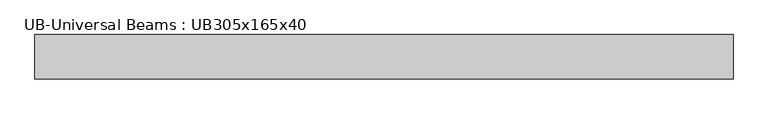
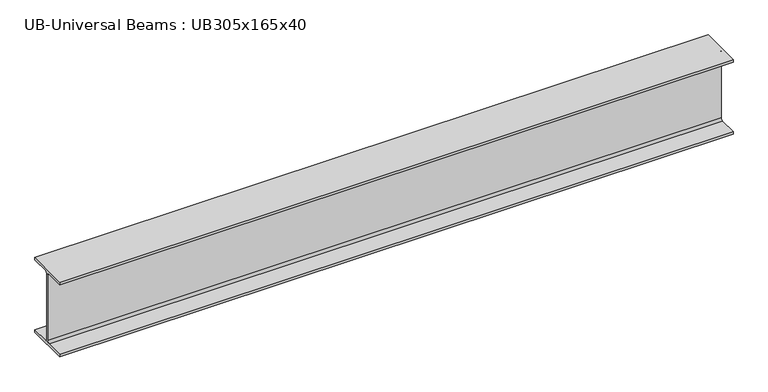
"""IFC4 building model written with IfcOpenShell, lengths in millimetres: beam geometry, UB-Universal Beams : UB305x165x40."""

from ifc_helpers import new_model, si_unit, point, frame, frame_2d, origin, place, context, project, spatial, polyline, circle_curve, trimmed, segment, composite_curve, outline, extrude, source, transform, mapped, element, save


def ub_universal_beams_ub305x165x40_d184adfd(model_context):
    return source(origin(), model_context, "Body", "SweptSolid", [
        extrude(outline(composite_curve([segment(polyline([(82.5, -141.5), (82.5, -151.7), (-82.5, -151.7), (-82.5, -141.5), (-11.9, -141.5)]), True, "CONTINUOUS"), segment(trimmed(circle_curve(frame_2d((-11.9, -132.6)), 8.9), [point((-11.9, -141.5))], [point((-3.0, -132.6))], True, "CARTESIAN"), True, "CONTINUOUS"), segment(polyline([(-3.0, -132.6), (-3.0, 132.6)]), True, "CONTINUOUS"), segment(trimmed(circle_curve(frame_2d((-11.9, 132.6)), 8.9), [point((-3.0, 132.6))], [point((-11.9, 141.5))], True, "CARTESIAN"), True, "CONTINUOUS"), segment(polyline([(-11.9, 141.5), (-82.5, 141.5), (-82.5, 151.7), (82.5, 151.7), (82.5, 141.5), (11.9, 141.5)]), True, "CONTINUOUS"), segment(trimmed(circle_curve(frame_2d((11.9, 132.6)), 8.9), [point((11.9, 141.5))], [point((3.0, 132.6))], True, "CARTESIAN"), True, "CONTINUOUS"), segment(polyline([(3.0, 132.6), (3.0, -132.6)]), True, "CONTINUOUS"), segment(trimmed(circle_curve(frame_2d((11.9, -132.6)), 8.9), [point((3.0, -132.6))], [point((11.9, -141.5))], True, "CARTESIAN"), True, "CONTINUOUS"), segment(polyline([(11.9, -141.5), (82.5, -141.5)]), True, "CONTINUOUS")], self_intersect=False)), frame((-1333.55, 0.0, 0.0), z_axis=(1.0, 0.0, 0.0), x_axis=(0.0, 1.0, 0.0)), (0.0, 0.0, 1.0), 2586.5),
    ])


if __name__ == "__main__":
    model = new_model("IFC4")
    model_context = context("Model", 3, world=origin())
    ifc_project = project(units=[si_unit("LENGTHUNIT", "METRE", prefix="MILLI")], contexts=[model_context])
    site = spatial("IfcSite", under=ifc_project)
    building = spatial("IfcBuilding", under=site)
    placement = place(None, origin())
    ub_universal_beams_ub305x165x40_shape = ub_universal_beams_ub305x165x40_d184adfd(model_context)
    element("IfcBeam", 1, ObjectType="UB-Universal Beams : UB305x165x40", at=placement, inside=building, context=model_context, shape_type="MappedRepresentation", body=[
        mapped(ub_universal_beams_ub305x165x40_shape, transform((0.0, 0.0, 0.0), x_axis=(1.0, 0.0, 0.0), y_axis=(0.0, 1.0, 0.0), z_axis=(0.0, 0.0, 1.0))),
    ])
    save(model, "model.ifc")
